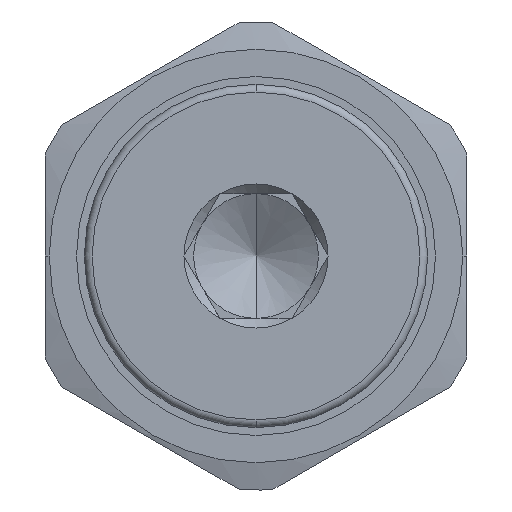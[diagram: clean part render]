
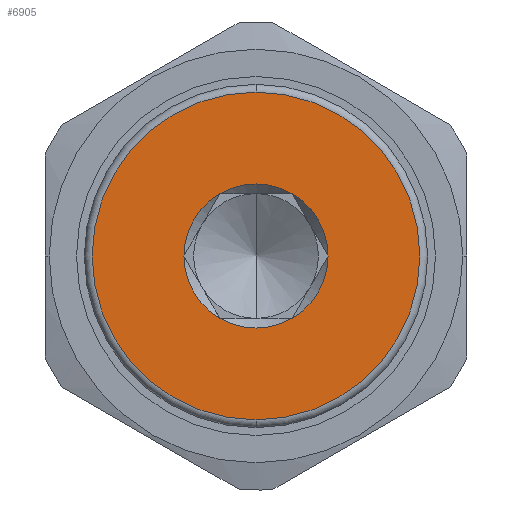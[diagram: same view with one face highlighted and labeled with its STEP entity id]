
A CAD part, left-side view. The second image highlights one B-rep face of the part: STEP entity #6905.
In plain terms, the highlighted planar face has unit normal (-1, 0, 0) as drawn and (0, 1, 0) by its records, which use the part's own axes.
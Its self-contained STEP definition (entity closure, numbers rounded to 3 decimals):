
#6086=CARTESIAN_POINT('',(0.,5.,0.));
#6087=DIRECTION('',(0.,1.,0.));
#6088=DIRECTION('',(-1.,0.,0.));
#6089=AXIS2_PLACEMENT_3D('',#6086,#6087,#6088);
#6102=CARTESIAN_POINT('',(0.,5.,0.));
#6103=DIRECTION('',(0.,-1.,0.));
#6104=DIRECTION('',(-1.,0.,0.));
#6105=AXIS2_PLACEMENT_3D('',#6102,#6103,#6104);
#6110=CARTESIAN_POINT('',(0.,5.,0.));
#6111=DIRECTION('',(0.,1.,0.));
#6112=DIRECTION('',(-0.866,0.,0.5));
#6113=AXIS2_PLACEMENT_3D('',#6110,#6111,#6112);
#6118=CARTESIAN_POINT('',(0.,5.,0.));
#6119=DIRECTION('',(0.,1.,0.));
#6120=DIRECTION('',(0.,0.,1.));
#6121=AXIS2_PLACEMENT_3D('',#6118,#6119,#6120);
#6126=CARTESIAN_POINT('',(0.,5.,0.));
#6127=DIRECTION('',(0.,-1.,0.));
#6128=DIRECTION('',(0.,0.,-1.));
#6129=AXIS2_PLACEMENT_3D('',#6126,#6127,#6128);
#6134=CARTESIAN_POINT('',(0.,5.,0.));
#6135=DIRECTION('',(0.,-1.,0.));
#6136=DIRECTION('',(-0.866,0.,-0.5));
#6137=AXIS2_PLACEMENT_3D('',#6134,#6135,#6136);
#6164=CARTESIAN_POINT('',(0.,5.,0.));
#6165=DIRECTION('',(0.,-1.,0.));
#6166=DIRECTION('',(-0.866,0.,0.5));
#6167=AXIS2_PLACEMENT_3D('',#6164,#6165,#6166);
#6406=CARTESIAN_POINT('',(0.,5.,0.));
#6407=DIRECTION('',(0.,-1.,0.));
#6408=DIRECTION('',(0.866,0.,-0.5));
#6409=AXIS2_PLACEMENT_3D('',#6406,#6407,#6408);
#6706=CARTESIAN_POINT('',(-10.5,5.,0.));
#6708=VERTEX_POINT('',#6706);
#6722=CARTESIAN_POINT('',(10.5,5.,0.));
#6724=VERTEX_POINT('',#6722);
#6756=CARTESIAN_POINT('',(0.,5.,4.619));
#6757=VERTEX_POINT('',#6756);
#6758=CARTESIAN_POINT('',(4.,5.,2.309));
#6759=VERTEX_POINT('',#6758);
#6760=CARTESIAN_POINT('',(4.,5.,-2.309));
#6761=VERTEX_POINT('',#6760);
#6762=CARTESIAN_POINT('',(0.,5.,-4.619));
#6763=VERTEX_POINT('',#6762);
#6764=CARTESIAN_POINT('',(-4.,5.,-2.309));
#6765=VERTEX_POINT('',#6764);
#6766=CARTESIAN_POINT('',(-4.,5.,2.309));
#6767=VERTEX_POINT('',#6766);
#6882=CARTESIAN_POINT('',(0.,5.,0.));
#6883=DIRECTION('',(0.,-1.,0.));
#6884=DIRECTION('',(-1.,0.,0.));
#6885=AXIS2_PLACEMENT_3D('',#6882,#6883,#6884);
#6886=PLANE('',#6885);
#6887=ORIENTED_EDGE('',*,*,#6861,.F.);
#6888=ORIENTED_EDGE('',*,*,#6877,.T.);
#6889=EDGE_LOOP('',(#6887,#6888));
#6890=FACE_OUTER_BOUND('',#6889,.F.);
#6892=ORIENTED_EDGE('',*,*,#6891,.F.);
#6894=ORIENTED_EDGE('',*,*,#6893,.T.);
#6896=ORIENTED_EDGE('',*,*,#6895,.T.);
#6898=ORIENTED_EDGE('',*,*,#6897,.F.);
#6900=ORIENTED_EDGE('',*,*,#6899,.F.);
#6902=ORIENTED_EDGE('',*,*,#6901,.F.);
#6903=EDGE_LOOP('',(#6892,#6894,#6896,#6898,#6900,#6902));
#6904=FACE_BOUND('',#6903,.F.);
#6090=CIRCLE('',#6089,10.5);
#6106=CIRCLE('',#6105,10.5);
#6114=CIRCLE('',#6113,4.619);
#6122=CIRCLE('',#6121,4.619);
#6130=CIRCLE('',#6129,4.619);
#6138=CIRCLE('',#6137,4.619);
#6168=CIRCLE('',#6167,4.619);
#6410=CIRCLE('',#6409,4.619);
#6861=EDGE_CURVE('',#6708,#6724,#6090,.T.);
#6877=EDGE_CURVE('',#6708,#6724,#6106,.T.);
#6891=EDGE_CURVE('',#6767,#6765,#6168,.T.);
#6893=EDGE_CURVE('',#6767,#6757,#6114,.T.);
#6895=EDGE_CURVE('',#6757,#6759,#6122,.T.);
#6897=EDGE_CURVE('',#6761,#6759,#6410,.T.);
#6899=EDGE_CURVE('',#6763,#6761,#6130,.T.);
#6901=EDGE_CURVE('',#6765,#6763,#6138,.T.);
#6905=ADVANCED_FACE('',(#6890,#6904),#6886,.F.);
